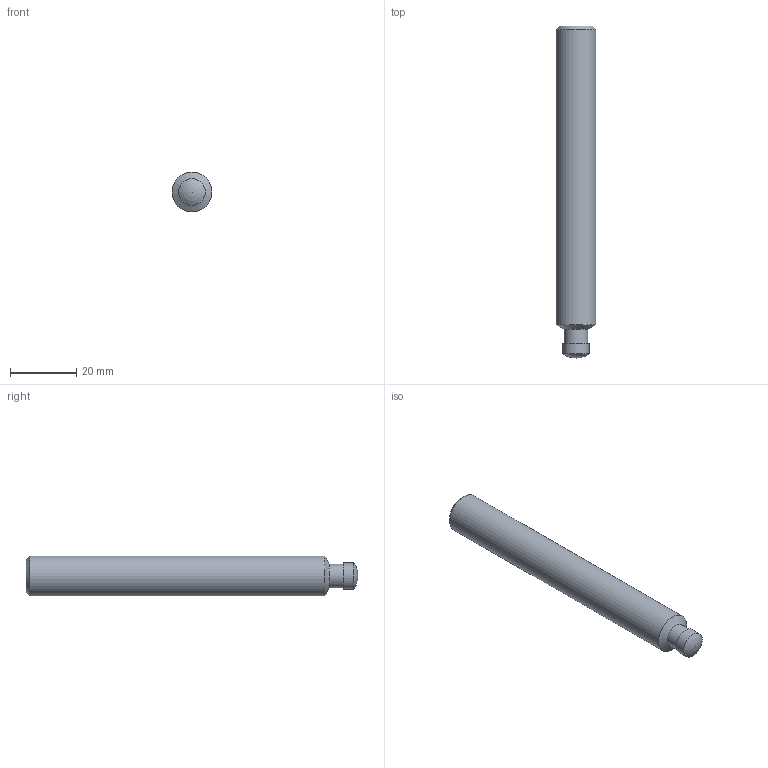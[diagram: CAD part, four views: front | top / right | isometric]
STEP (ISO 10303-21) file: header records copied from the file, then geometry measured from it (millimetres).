
FILE_DESCRIPTION( ( 'STEP AP203' ), '1' );
FILE_NAME( 'C:/Temp/Ganter_Step_05_03_2020/data/3_2/din6332/din6332_ni/Stainless Steel-Grub screw DIN 6332-M12-100-SKN-NI.stp', '2020-03-13T05:16:44', ( 'License CC BY-ND 4.0' ), ( 'CADENAS' ), ' ', 'PARTsolutions', ' ' );
FILE_SCHEMA( ( 'CONFIG_CONTROL_DESIGN' ) );
Length unit declared in the file: millimetre
Products named in the file (1): _Stainless Steel-Grub screw DIN 6332-M12-100-SKN-NI
Bounding box: 12 x 100 x 12 mm (x, y, z)
Volume: 10497.9 mm3; surface area: 3885.9 mm2
Topology: 1 solids, 1 shells, 15 faces, 33 edges, 21 vertices
Faces by surface type: plane 9, cylinder 3, cone 2, sphere 1
Full cylindrical faces by diameter (mm): 7.2 x1, 8 x1, 12 x1
Entity records: 410 total; most frequent: DIRECTION 64, CARTESIAN_POINT 61, ORIENTED_EDGE 50, EDGE_CURVE 25, AXIS2_PLACEMENT_3D 23, EDGE_LOOP 22, VERTEX_POINT 20, FACE_OUTER_BOUND 18
